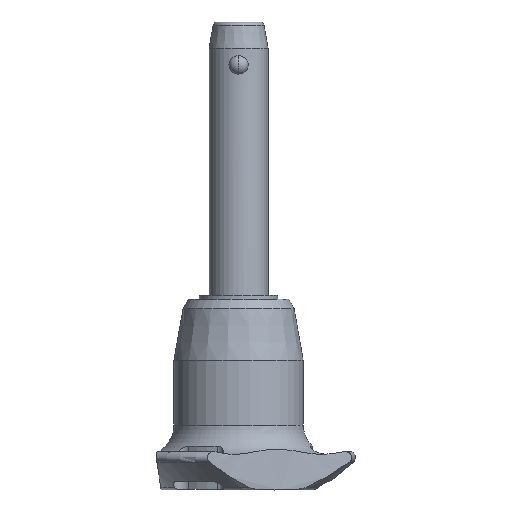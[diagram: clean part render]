
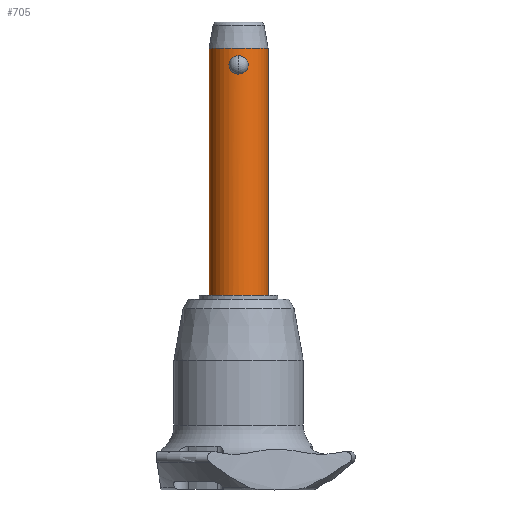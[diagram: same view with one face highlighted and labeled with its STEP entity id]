
A CAD part, front view. The second image highlights one B-rep face of the part: STEP entity #705.
In plain terms, the highlighted cylindrical face has radius 6 mm (diameter 12 mm), a partial arc.
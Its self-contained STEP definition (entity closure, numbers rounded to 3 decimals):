
#16 = CARTESIAN_POINT ( 'NONE',  ( 1.277, -5.863, 0.437 ) ) ;
#115 = AXIS2_PLACEMENT_3D ( 'NONE', #305, #2020, #1158 ) ;
#175 = CARTESIAN_POINT ( 'NONE',  ( -1.541, -5.799, 3.011 ) ) ;
#186 = CARTESIAN_POINT ( 'NONE',  ( -0.967, -5.923, 0.233 ) ) ;
#200 = CARTESIAN_POINT ( 'NONE',  ( -0.966, -5.923, 3.476 ) ) ;
#212 = CARTESIAN_POINT ( 'NONE',  ( 1.178, -5.884, 3.346 ) ) ;
#263 = CARTESIAN_POINT ( 'NONE',  ( 0., -6., 0. ) ) ;
#272 = ORIENTED_EDGE ( 'NONE', *, *, #1959, .F. ) ;
#293 = CARTESIAN_POINT ( 'NONE',  ( 0.498, -5.981, 3.652 ) ) ;
#305 = CARTESIAN_POINT ( 'NONE',  ( 0., 0., -45. ) ) ;
#307 = CARTESIAN_POINT ( 'NONE',  ( 0.127, -6., 3.708 ) ) ;
#311 = VERTEX_POINT ( 'NONE', #1422 ) ;
#357 = CARTESIAN_POINT ( 'NONE',  ( -0.127, -6., 3.708 ) ) ;
#374 = CARTESIAN_POINT ( 'NONE',  ( -1.89, -5.695, 1.358 ) ) ;
#443 = CARTESIAN_POINT ( 'NONE',  ( 1.955, -5.673, 1.979 ) ) ;
#471 = CARTESIAN_POINT ( 'NONE',  ( 0.966, -5.923, 0.232 ) ) ;
#514 = AXIS2_PLACEMENT_3D ( 'NONE', #747, #2317, #2079 ) ;
#552 = DIRECTION ( 'NONE',  ( 0., 0., 1. ) ) ;
#592 = CARTESIAN_POINT ( 'NONE',  ( -0.498, -5.981, 3.652 ) ) ;
#609 = VERTEX_POINT ( 'NONE', #2800 ) ;
#614 = VERTEX_POINT ( 'NONE', #2565 ) ;
#627 = EDGE_LOOP ( 'NONE', ( #1255, #1598 ) ) ;
#683 = B_SPLINE_CURVE_WITH_KNOTS ( 'NONE', 3,
 ( #1483, #357, #1515, #592, #1298, #1714, #200, #813, #2348, #1967, #175, #1050, #1308, #1924, #869, #2787, #2361, #374, #1935, #1251, #2585, #2806, #2846, #186, #1087, #827, #1700, #1075 ),
 .UNSPECIFIED., .F., .F.,
 ( 4, 2, 2, 2, 2, 2, 2, 2, 2, 2, 2, 2, 2, 4 ),
 ( 0., 0., 0.001, 0.001, 0.002, 0.002, 0.002, 0.003, 0.003, 0.004, 0.005, 0.005, 0.005, 0.006 ),
 .UNSPECIFIED. ) ;
#705 = ADVANCED_FACE ( 'NONE', ( #1202, #2553 ), #1879, .T. ) ;
#706 = VECTOR ( 'NONE', #552, 1000. ) ;
#737 = EDGE_LOOP ( 'NONE', ( #1199, #272, #2753, #1574 ) ) ;
#747 = CARTESIAN_POINT ( 'NONE',  ( 0., 0., -45. ) ) ;
#748 = B_SPLINE_CURVE_WITH_KNOTS ( 'NONE', 3,
 ( #263, #2855, #1587, #2454, #471, #1998, #16, #1330, #1112, #2866, #1370, #1808, #2688, #443, #1604, #2472, #878, #1788, #1283, #2188, #212, #2056, #2486, #945, #293, #1223, #307, #1160 ),
 .UNSPECIFIED., .F., .F.,
 ( 4, 2, 2, 2, 2, 2, 2, 2, 2, 2, 2, 2, 2, 4 ),
 ( 0.006, 0.007, 0.007, 0.008, 0.008, 0.008, 0.009, 0.009, 0.01, 0.011, 0.011, 0.011, 0.012, 0.012 ),
 .UNSPECIFIED. ) ;
#813 = CARTESIAN_POINT ( 'NONE',  ( -1.177, -5.884, 3.347 ) ) ;
#818 = VERTEX_POINT ( 'NONE', #1004 ) ;
#827 = CARTESIAN_POINT ( 'NONE',  ( -0.504, -5.983, 0.045 ) ) ;
#869 = CARTESIAN_POINT ( 'NONE',  ( -1.955, -5.673, 2.107 ) ) ;
#874 = EDGE_CURVE ( 'NONE', #311, #614, #683, .T. ) ;
#878 = CARTESIAN_POINT ( 'NONE',  ( 1.851, -5.708, 2.47 ) ) ;
#900 = CIRCLE ( 'NONE', #115, 6. ) ;
#945 = CARTESIAN_POINT ( 'NONE',  ( 0.62, -5.969, 3.619 ) ) ;
#1004 = CARTESIAN_POINT ( 'NONE',  ( 6., 0., 5.3 ) ) ;
#1050 = CARTESIAN_POINT ( 'NONE',  ( -1.687, -5.759, 2.809 ) ) ;
#1075 = CARTESIAN_POINT ( 'NONE',  ( 0., -6., 0. ) ) ;
#1087 = CARTESIAN_POINT ( 'NONE',  ( -0.853, -5.94, 0.177 ) ) ;
#1112 = CARTESIAN_POINT ( 'NONE',  ( 1.543, -5.799, 0.699 ) ) ;
#1148 = EDGE_CURVE ( 'NONE', #1944, #818, #2710, .T. ) ;
#1158 = DIRECTION ( 'NONE',  ( 1., 0., 0. ) ) ;
#1160 = CARTESIAN_POINT ( 'NONE',  ( 0., -6., 3.708 ) ) ;
#1195 = CARTESIAN_POINT ( 'NONE',  ( 0., 0., 5.3 ) ) ;
#1199 = ORIENTED_EDGE ( 'NONE', *, *, #2792, .F. ) ;
#1202 = FACE_OUTER_BOUND ( 'NONE', #737, .T. ) ;
#1223 = CARTESIAN_POINT ( 'NONE',  ( 0.252, -5.996, 3.697 ) ) ;
#1251 = CARTESIAN_POINT ( 'NONE',  ( -1.7, -5.755, 0.895 ) ) ;
#1255 = ORIENTED_EDGE ( 'NONE', *, *, #874, .F. ) ;
#1277 = VERTEX_POINT ( 'NONE', #2378 ) ;
#1283 = CARTESIAN_POINT ( 'NONE',  ( 1.551, -5.799, 3.018 ) ) ;
#1298 = CARTESIAN_POINT ( 'NONE',  ( -0.62, -5.969, 3.619 ) ) ;
#1308 = CARTESIAN_POINT ( 'NONE',  ( -1.75, -5.74, 2.7 ) ) ;
#1330 = CARTESIAN_POINT ( 'NONE',  ( 1.459, -5.821, 0.604 ) ) ;
#1370 = CARTESIAN_POINT ( 'NONE',  ( 1.749, -5.74, 1.007 ) ) ;
#1415 = CARTESIAN_POINT ( 'NONE',  ( -6., 0., -45. ) ) ;
#1422 = CARTESIAN_POINT ( 'NONE',  ( 0., -6., 3.708 ) ) ;
#1483 = CARTESIAN_POINT ( 'NONE',  ( 0., -6., 3.708 ) ) ;
#1515 = CARTESIAN_POINT ( 'NONE',  ( -0.252, -5.996, 3.697 ) ) ;
#1559 = VECTOR ( 'NONE', #2281, 1000. ) ;
#1574 = ORIENTED_EDGE ( 'NONE', *, *, #2809, .T. ) ;
#1587 = CARTESIAN_POINT ( 'NONE',  ( 0.503, -5.983, 0.045 ) ) ;
#1598 = ORIENTED_EDGE ( 'NONE', *, *, #2678, .F. ) ;
#1604 = CARTESIAN_POINT ( 'NONE',  ( 1.942, -5.677, 2.103 ) ) ;
#1651 = CARTESIAN_POINT ( 'NONE',  ( 6., 0., -45. ) ) ;
#1700 = CARTESIAN_POINT ( 'NONE',  ( -0.25, -6., 0. ) ) ;
#1714 = CARTESIAN_POINT ( 'NONE',  ( -0.854, -5.94, 3.53 ) ) ;
#1788 = CARTESIAN_POINT ( 'NONE',  ( 1.7, -5.755, 2.812 ) ) ;
#1808 = CARTESIAN_POINT ( 'NONE',  ( 1.901, -5.692, 1.35 ) ) ;
#1879 = CYLINDRICAL_SURFACE ( 'NONE', #514, 6. ) ;
#1922 = AXIS2_PLACEMENT_3D ( 'NONE', #1195, #2098, #2071 ) ;
#1924 = CARTESIAN_POINT ( 'NONE',  ( -1.9, -5.692, 2.359 ) ) ;
#1935 = CARTESIAN_POINT ( 'NONE',  ( -1.852, -5.707, 1.239 ) ) ;
#1944 = VERTEX_POINT ( 'NONE', #2483 ) ;
#1959 = EDGE_CURVE ( 'NONE', #1944, #1277, #900, .T. ) ;
#1967 = CARTESIAN_POINT ( 'NONE',  ( -1.46, -5.821, 3.103 ) ) ;
#1998 = CARTESIAN_POINT ( 'NONE',  ( 1.178, -5.884, 0.362 ) ) ;
#2020 = DIRECTION ( 'NONE',  ( 0., 0., -1. ) ) ;
#2056 = CARTESIAN_POINT ( 'NONE',  ( 0.966, -5.923, 3.476 ) ) ;
#2071 = DIRECTION ( 'NONE',  ( 1., 0., 0. ) ) ;
#2079 = DIRECTION ( 'NONE',  ( 1., 0., 0. ) ) ;
#2098 = DIRECTION ( 'NONE',  ( 0., 0., -1. ) ) ;
#2188 = CARTESIAN_POINT ( 'NONE',  ( 1.279, -5.863, 3.27 ) ) ;
#2281 = DIRECTION ( 'NONE',  ( 0., 0., 1. ) ) ;
#2317 = DIRECTION ( 'NONE',  ( 0., 0., 1. ) ) ;
#2348 = CARTESIAN_POINT ( 'NONE',  ( -1.278, -5.863, 3.271 ) ) ;
#2361 = CARTESIAN_POINT ( 'NONE',  ( -1.942, -5.677, 1.604 ) ) ;
#2378 = CARTESIAN_POINT ( 'NONE',  ( -6., 0., -45. ) ) ;
#2454 = CARTESIAN_POINT ( 'NONE',  ( 0.853, -5.94, 0.177 ) ) ;
#2472 = CARTESIAN_POINT ( 'NONE',  ( 1.89, -5.695, 2.349 ) ) ;
#2483 = CARTESIAN_POINT ( 'NONE',  ( 6., 0., -45. ) ) ;
#2486 = CARTESIAN_POINT ( 'NONE',  ( 0.855, -5.94, 3.53 ) ) ;
#2553 = FACE_BOUND ( 'NONE', #627, .T. ) ;
#2565 = CARTESIAN_POINT ( 'NONE',  ( 0., -6., 0. ) ) ;
#2585 = CARTESIAN_POINT ( 'NONE',  ( -1.551, -5.799, 0.69 ) ) ;
#2678 = EDGE_CURVE ( 'NONE', #614, #311, #748, .T. ) ;
#2688 = CARTESIAN_POINT ( 'NONE',  ( 1.955, -5.673, 1.6 ) ) ;
#2710 = LINE ( 'NONE', #1651, #706 ) ;
#2732 = LINE ( 'NONE', #1415, #1559 ) ;
#2753 = ORIENTED_EDGE ( 'NONE', *, *, #1148, .T. ) ;
#2787 = CARTESIAN_POINT ( 'NONE',  ( -1.955, -5.673, 1.731 ) ) ;
#2792 = EDGE_CURVE ( 'NONE', #1277, #609, #2732, .T. ) ;
#2800 = CARTESIAN_POINT ( 'NONE',  ( -6., 0., 5.3 ) ) ;
#2806 = CARTESIAN_POINT ( 'NONE',  ( -1.278, -5.863, 0.437 ) ) ;
#2809 = EDGE_CURVE ( 'NONE', #818, #609, #2842, .T. ) ;
#2842 = CIRCLE ( 'NONE', #1922, 6. ) ;
#2846 = CARTESIAN_POINT ( 'NONE',  ( -1.179, -5.884, 0.363 ) ) ;
#2855 = CARTESIAN_POINT ( 'NONE',  ( 0.25, -6., 0. ) ) ;
#2866 = CARTESIAN_POINT ( 'NONE',  ( 1.687, -5.758, 0.899 ) ) ;
